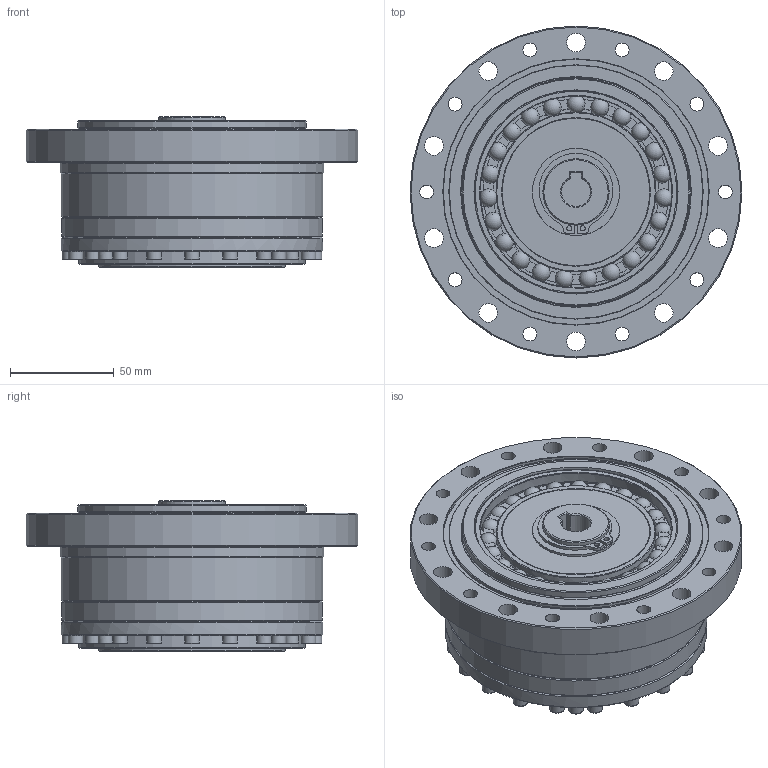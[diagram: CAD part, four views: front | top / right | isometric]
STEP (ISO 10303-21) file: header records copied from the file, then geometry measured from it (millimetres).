
FILE_DESCRIPTION(/* description */ (''),/* implementation_level */ '2;1');
FILE_NAME(/* name */ 'S:\TB00F\研發課二組\機密級\97.\X2\540C4EC151714EAB5340\X0\ (機密級)\H11\欣怡\2023專案追蹤\2.型錄\模型\\X2\5B987DB2\X0\3D檔(NEW)\DGC-PO\DGC-40-XX-PO.stp',/* time_stamp */ '2024-09-12T17:13:42+08:00',/* author */ ('bb1128.zheng'),/* organization */ (''),/* preprocessor_version */ 'ST-DEVELOPER v15.2',/* originating_system */ 'Autodesk Inventor 2014',/* authorisation */ '');
FILE_SCHEMA (('AUTOMOTIVE_DESIGN { 1 0 10303 214 3 1 1 }'));
Length unit declared in the file: centimetre
Products named in the file (1): DGC-40-PO
Bounding box: 160 x 160 x 72.5 mm (x, y, z)
Volume: 745344.2 mm3; surface area: 141541.4 mm2
Topology: 1 solids, 13 shells, 855 faces, 2137 edges, 1336 vertices
Faces by surface type: plane 399, cylinder 231, torus 103, cone 99, sphere 23
Full cylindrical faces by diameter (mm): 2.5 x2, 4.6 x4, 5 x4, 6.647 x10, 7 x24, 8.376 x16, 9 x10, 10 x8, 11 x8, 16 x8, 24 x2, 30.3 x1, 32 x6, 32.1 x1, 32.5 x1, 42 x1, 66 x1, 71.12 x1, 76.96 x1, 80.8 x1, 86 x1, 90 x2, 92.35 x1, 97.873 x1, 98.17 x1, 105 x2, 109 x1, 110 x1, 122.6 x1, 126 x3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
Entity records: 23529 total; most frequent: CARTESIAN_POINT 4452, DIRECTION 3946, ORIENTED_EDGE 3428, AXIS2_PLACEMENT_3D 1682, EDGE_CURVE 1667, EDGE_LOOP 1251, VERTEX_POINT 1166, ADVANCED_FACE 855
